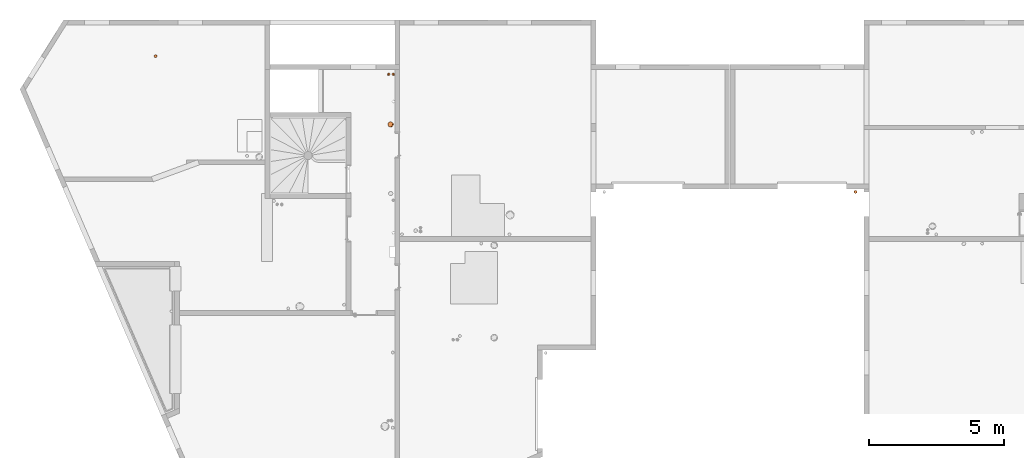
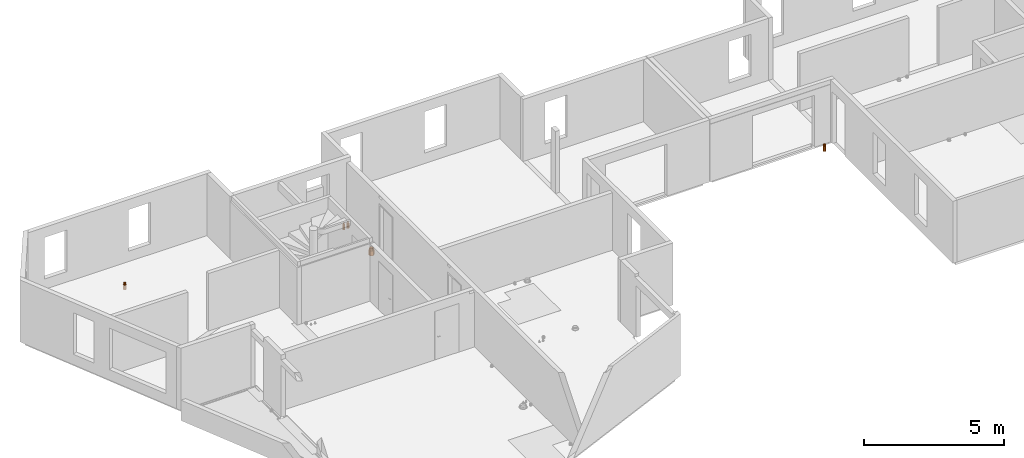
# One storey, part 25 of 30: 6 proxies.
"""IFC2X3 building model written with IfcOpenShell, lengths in centimetres."""

from ifc_helpers import new_model, entity, si_unit, converted_unit, derived_unit, direction, frame, frame_2d, origin, origin_2d_with_axis, place, context, subcontext, project, spatial, circle, hollow_circle, extrude, source, transform, mapped, material, type_object, type_shapes, element, save


model = new_model("IFC2X3")

# Units and contexts
model_context = context("Model", 3, precision=0.001, world=origin(), true_north=direction((6.12303176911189e-17, 1.0)))
body_context = subcontext(model_context, "Body", "Model", "MODEL_VIEW")
ifc_project = project(units=[si_unit("LENGTHUNIT", "METRE", prefix="CENTI"), si_unit("AREAUNIT", "SQUARE_METRE"), si_unit("VOLUMEUNIT", "CUBIC_METRE"), converted_unit("PLANEANGLEUNIT", "DEGREE", entity("IfcRatioMeasure", 0.0174532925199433), si_unit("PLANEANGLEUNIT", "RADIAN"), dimensions=[0, 0, 0, 0, 0, 0, 0]), si_unit("MASSUNIT", "GRAM", prefix="KILO"), derived_unit("MASSDENSITYUNIT", [(si_unit("MASSUNIT", "GRAM", prefix="KILO"), 1), (si_unit("LENGTHUNIT", "METRE"), -3)]), si_unit("TIMEUNIT", "SECOND"), si_unit("FREQUENCYUNIT", "HERTZ"), si_unit("THERMODYNAMICTEMPERATUREUNIT", "DEGREE_CELSIUS"), derived_unit("THERMALTRANSMITTANCEUNIT", [(si_unit("MASSUNIT", "GRAM", prefix="KILO"), 1), (si_unit("THERMODYNAMICTEMPERATUREUNIT", "KELVIN"), -1), (si_unit("TIMEUNIT", "SECOND"), -3)]), derived_unit("VOLUMETRICFLOWRATEUNIT", [(si_unit("LENGTHUNIT", "METRE"), 3), (si_unit("TIMEUNIT", "SECOND"), -1)]), si_unit("ELECTRICCURRENTUNIT", "AMPERE"), si_unit("ELECTRICVOLTAGEUNIT", "VOLT"), si_unit("POWERUNIT", "WATT"), si_unit("FORCEUNIT", "NEWTON"), si_unit("ILLUMINANCEUNIT", "LUX"), si_unit("LUMINOUSFLUXUNIT", "LUMEN"), si_unit("LUMINOUSINTENSITYUNIT", "CANDELA"), derived_unit("USERDEFINED", [(si_unit("MASSUNIT", "GRAM", prefix="KILO"), -1), (si_unit("LENGTHUNIT", "METRE"), -2), (si_unit("TIMEUNIT", "SECOND"), 3), (si_unit("LUMINOUSFLUXUNIT", "LUMEN"), 1)]), derived_unit("LINEARVELOCITYUNIT", [(si_unit("LENGTHUNIT", "METRE"), 1), (si_unit("TIMEUNIT", "SECOND"), -1)]), si_unit("PRESSUREUNIT", "PASCAL"), derived_unit("USERDEFINED", [(si_unit("LENGTHUNIT", "METRE"), -2), (si_unit("MASSUNIT", "GRAM", prefix="KILO"), 1), (si_unit("TIMEUNIT", "SECOND"), -2)])], contexts=[model_context])

# Site, building, storey
site_placement = place(None, origin())
site = spatial("IfcSite", under=ifc_project, at=site_placement, Name="Default", CompositionType="ELEMENT")
building_placement = place(site_placement, origin())
building = spatial("IfcBuilding", under=site, at=building_placement, Name="CAGE 03", CompositionType="ELEMENT")
storey_placement = place(building_placement, frame((0.0, 0.0, 610.0)))
storey = spatial("IfcBuildingStorey", under=building, at=storey_placement, Name="R+2", CompositionType="ELEMENT", Elevation=610.0)

# Proxies
ifc_material_1 = material(Name="BBGO_Résa")
building_element_proxy_type_1 = type_object("IfcBuildingElementProxyType", Name="Ø110", PredefinedType="NOTDEFINED", material=ifc_material_1)
shared_shape_1 = source(origin(), body_context, "Body", "SweptSolid", [
    extrude(circle(Radius=5.5, at=origin_2d_with_axis()), frame((3249.0878549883, 5159.70029055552, 590.0)), (0.0, 0.0, 1.0), 20.0),
])
type_shapes(building_element_proxy_type_1, [shared_shape_1])
proxy_1_placement = place(storey_placement, frame((0.0, 0.0, -610.0)))
element("IfcBuildingElementProxy", 1, at=proxy_1_placement, inside=storey, type_object=building_element_proxy_type_1, material=ifc_material_1, Name="BBGO-Résa circ dalle:Ø110", ObjectType="Ø110", context=body_context, shape_type="MappedRepresentation", body=[
    mapped(shared_shape_1, transform((0.0, 0.0, 0.0), scale=1.0)),
])
ifc_material_2 = material(Name="Conduit EP")
building_element_proxy_type_2 = type_object("IfcBuildingElementProxyType", Name="EP 101", PredefinedType="NOTDEFINED", material=ifc_material_2)
shared_shape_2 = source(origin(), body_context, "Body", "SweptSolid", [
    extrude(circle(Radius=5.5, at=frame_2d((0.0, -8.88549515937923e-15), x_axis=(1.0, 0.0))), frame((0.0, 0.0, -21.0)), (0.0, 0.0, 1.0), 21.0),
    extrude(hollow_circle(Radius=5.0, WallThickness=0.25, at=frame_2d((0.0, -8.07772287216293e-15), x_axis=(1.0, 0.0))), frame((0.0, 0.0, -21.0)), (0.0, 0.0, 1.0), 28.5),
])
type_shapes(building_element_proxy_type_2, [shared_shape_2])
for number, where, name in (
    (2, (3249.08785498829, 5159.70173105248, -4.46999646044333e-07), "Galette - Résa - PVC1:EP 101"),
    (3, (5839.36973094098, 4657.40286438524, -4.46999646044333e-07), "Galette - Résa - PVC1:EP 101"),
):
    element("IfcBuildingElementProxy", number, at=place(storey_placement, frame(where)), inside=storey, type_object=building_element_proxy_type_2, material=ifc_material_2, Name=name, ObjectType="EP 101", context=body_context, shape_type="MappedRepresentation", body=[
        mapped(shared_shape_2, transform((0.0, 0.0, 0.0), scale=1.0)),
    ])
building_element_proxy_type_3 = type_object("IfcBuildingElementProxyType", Name="EP 161", PredefinedType="NOTDEFINED", material=ifc_material_2)
shared_shape_3 = source(origin(), body_context, "Body", "SweptSolid", [
    extrude(circle(Radius=10.0, at=frame_2d((0.0, -1.61554457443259e-14), x_axis=(1.0, 0.0))), frame((0.0, 0.0, -21.0)), (0.0, 0.0, 1.0), 21.0),
    extrude(hollow_circle(Radius=8.0, WallThickness=0.250000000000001, at=frame_2d((0.0, -1.29243565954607e-14), x_axis=(1.0, 0.0))), frame((0.0, 0.0, -21.0)), (0.0, 0.0, 1.0), 28.5),
])
type_shapes(building_element_proxy_type_3, [shared_shape_3])
proxy_2_placement = place(storey_placement, frame((4118.79282427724, 4907.15627952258, -4.46999646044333e-07)))
element("IfcBuildingElementProxy", 4, at=proxy_2_placement, inside=storey, type_object=building_element_proxy_type_3, material=ifc_material_2, Name="Galette - Résa - PVC1:EP 161", ObjectType="EP 161", context=body_context, shape_type="MappedRepresentation", body=[
    mapped(shared_shape_3, transform((0.0, 0.0, 0.0), scale=1.0)),
])
ifc_material_3 = material(Name="Circuit CHF Aller")
building_element_proxy_type_4 = type_object("IfcBuildingElementProxyType", Name="CHF Aller 41", PredefinedType="NOTDEFINED", material=ifc_material_3)
shared_shape_4 = source(origin(), body_context, "Body", "SweptSolid", [
    extrude(circle(Radius=5.0, at=frame_2d((0.0, -8.07772287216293e-15), x_axis=(1.0, 0.0))), frame((0.0, 0.0, -21.0)), (0.0, 0.0, 1.0), 21.0),
    extrude(hollow_circle(Radius=2.0, WallThickness=0.4, at=frame_2d((0.0, -3.23108914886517e-15), x_axis=(1.0, 0.0))), frame((0.0, 0.0, -21.0)), (0.0, 0.0, 1.0), 28.5),
])
type_shapes(building_element_proxy_type_4, [shared_shape_4])
proxy_3_placement = place(storey_placement, frame((4111.59705654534, 5092.36066607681, -4.46999646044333e-07)))
element("IfcBuildingElementProxy", 5, at=proxy_3_placement, inside=storey, type_object=building_element_proxy_type_4, material=ifc_material_3, Name="Galette - Résa - PVC1:CHF Aller 41", ObjectType="CHF Aller 41", context=body_context, shape_type="MappedRepresentation", body=[
    mapped(shared_shape_4, transform((0.0, 0.0, 0.0), scale=1.0)),
])
ifc_material_4 = material(Name="Circuit CHF Retour")
building_element_proxy_type_5 = type_object("IfcBuildingElementProxyType", Name="CHF Retour 43", PredefinedType="NOTDEFINED", material=ifc_material_4)
shared_shape_5 = source(origin(), body_context, "Body", "SweptSolid", [
    extrude(circle(Radius=5.0, at=frame_2d((0.0, -8.07772287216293e-15), x_axis=(1.0, 0.0))), frame((0.0, 0.0, -21.0)), (0.0, 0.0, 1.0), 21.0),
    extrude(hollow_circle(Radius=2.0, WallThickness=0.4, at=frame_2d((0.0, -3.23108914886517e-15), x_axis=(1.0, 0.0))), frame((0.0, 0.0, -21.0)), (0.0, 0.0, 1.0), 28.5),
])
type_shapes(building_element_proxy_type_5, [shared_shape_5])
proxy_4_placement = place(storey_placement, frame((4128.59705654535, 5092.36066607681, -4.46999646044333e-07)))
element("IfcBuildingElementProxy", 6, at=proxy_4_placement, inside=storey, type_object=building_element_proxy_type_5, material=ifc_material_4, Name="Galette - Résa - PVC1:CHF Retour 43", ObjectType="CHF Retour 43", context=body_context, shape_type="MappedRepresentation", body=[
    mapped(shared_shape_5, transform((0.0, 0.0, 0.0), scale=1.0)),
])

save(model, "model.ifc")
